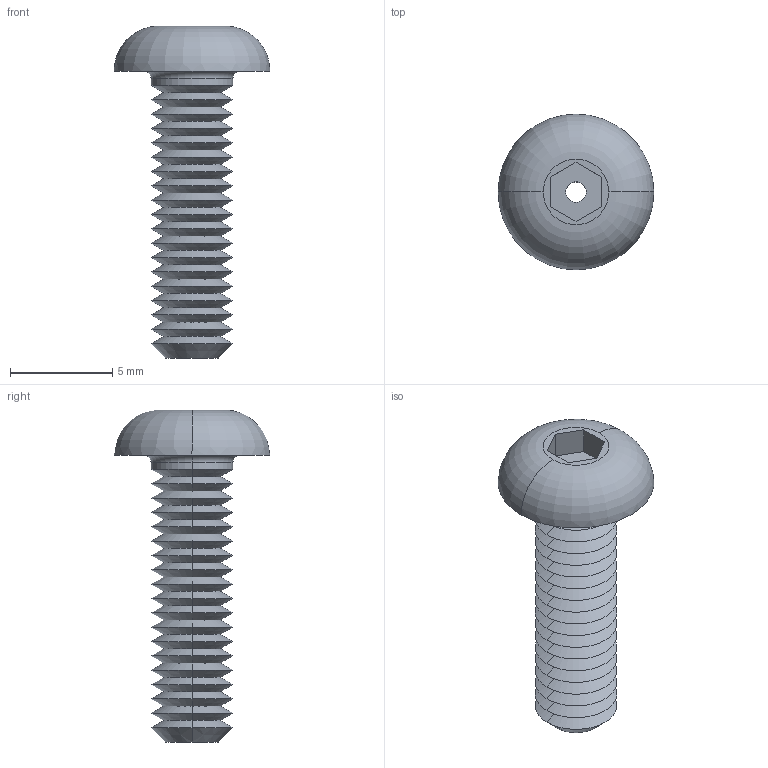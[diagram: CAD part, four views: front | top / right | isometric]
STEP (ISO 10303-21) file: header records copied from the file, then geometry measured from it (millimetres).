
FILE_DESCRIPTION (( 'STEP AP203' ), '1' );
FILE_NAME ('P0094.040-014-A2.step', '2019-07-12T16:52:42', ( '' ), ( '' ), 'SwSTEP 2.0', 'SolidWorks 2017', '' );
FILE_SCHEMA (( 'CONFIG_CONTROL_DESIGN' ));
Length unit declared in the file: millimetre
Products named in the file (1): P0094.040-014-A2
Bounding box: 7.6 x 7.6 x 16.2 mm (x, y, z)
Volume: 189.9 mm3; surface area: 453.7 mm2
Topology: 1 solids, 1 shells, 92 faces, 188 edges, 100 vertices
Faces by surface type: cone 74, plane 10, cylinder 4, torus 4
Entity records: 2437 total; most frequent: DIRECTION 466, CARTESIAN_POINT 381, ORIENTED_EDGE 376, EDGE_CURVE 188, AXIS2_PLACEMENT_3D 185, VERTEX_POINT 100, LINE 96, EDGE_LOOP 96
